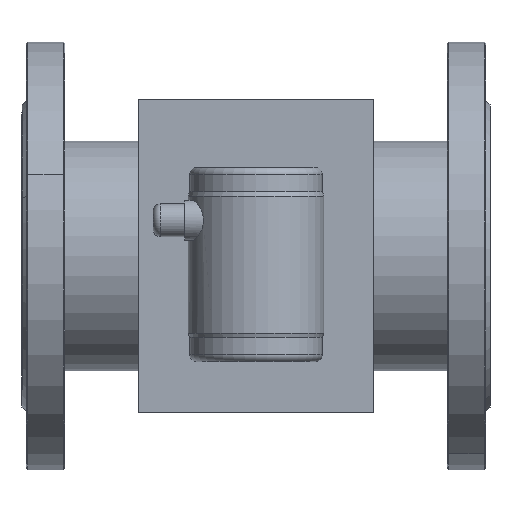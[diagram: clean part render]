
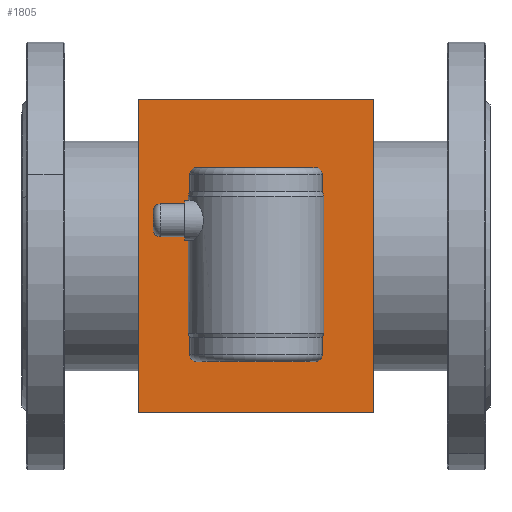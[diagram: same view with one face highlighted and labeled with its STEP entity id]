
A CAD part, front view. The second image highlights one B-rep face of the part: STEP entity #1805.
In plain terms, the highlighted planar face has unit normal (0, -1, 0).
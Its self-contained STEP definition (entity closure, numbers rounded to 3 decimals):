
#45 = CARTESIAN_POINT ( 'NONE',  ( -110., -110., -246.5 ) ) ;
#392 = EDGE_CURVE ( 'NONE', #1144, #1405, #3731, .T. ) ;
#442 = EDGE_CURVE ( 'NONE', #2244, #1144, #2654, .T. ) ;
#496 = VECTOR ( 'NONE', #1116, 1000. ) ;
#501 = CARTESIAN_POINT ( 'NONE',  ( 110., -110., -81.5 ) ) ;
#625 = ORIENTED_EDGE ( 'NONE', *, *, #2539, .F. ) ;
#715 = CARTESIAN_POINT ( 'NONE',  ( 110., -110., -246.5 ) ) ;
#773 = VERTEX_POINT ( 'NONE', #3507 ) ;
#829 = VECTOR ( 'NONE', #4614, 1000. ) ;
#838 = EDGE_LOOP ( 'NONE', ( #2750, #2310, #2735, #3237 ) ) ;
#866 = VECTOR ( 'NONE', #3310, 1000. ) ;
#941 = CIRCLE ( 'NONE', #3107, 30. ) ;
#1116 = DIRECTION ( 'NONE',  ( 0., 0., 1. ) ) ;
#1144 = VERTEX_POINT ( 'NONE', #715 ) ;
#1169 = ORIENTED_EDGE ( 'NONE', *, *, #2369, .F. ) ;
#1254 = EDGE_CURVE ( 'NONE', #2244, #2868, #3481, .T. ) ;
#1405 = VERTEX_POINT ( 'NONE', #501 ) ;
#1523 = DIRECTION ( 'NONE',  ( 0., -1., 0. ) ) ;
#1542 = DIRECTION ( 'NONE',  ( 1., 0., 0. ) ) ;
#1586 = DIRECTION ( 'NONE',  ( 0., 0., -1. ) ) ;
#1728 = EDGE_CURVE ( 'NONE', #2868, #1405, #2964, .T. ) ;
#1805 = ADVANCED_FACE ( 'NONE', ( #4429, #2517 ), #3392, .T. ) ;
#1814 = AXIS2_PLACEMENT_3D ( 'NONE', #3664, #1523, #4034 ) ;
#1972 = CARTESIAN_POINT ( 'NONE',  ( -110., -110., -246.5 ) ) ;
#2132 = DIRECTION ( 'NONE',  ( 0., -1., 0. ) ) ;
#2181 = CIRCLE ( 'NONE', #1814, 30. ) ;
#2244 = VERTEX_POINT ( 'NONE', #1972 ) ;
#2256 = CARTESIAN_POINT ( 'NONE',  ( -110., -110., -246.5 ) ) ;
#2310 = ORIENTED_EDGE ( 'NONE', *, *, #1254, .F. ) ;
#2369 = EDGE_CURVE ( 'NONE', #3078, #773, #941, .T. ) ;
#2478 = AXIS2_PLACEMENT_3D ( 'NONE', #2643, #3752, #1586 ) ;
#2517 = FACE_OUTER_BOUND ( 'NONE', #838, .T. ) ;
#2539 = EDGE_CURVE ( 'NONE', #773, #3078, #2181, .T. ) ;
#2548 = VECTOR ( 'NONE', #1542, 1000. ) ;
#2643 = CARTESIAN_POINT ( 'NONE',  ( -110., -110., -246.5 ) ) ;
#2654 = LINE ( 'NONE', #2256, #2548 ) ;
#2735 = ORIENTED_EDGE ( 'NONE', *, *, #442, .T. ) ;
#2750 = ORIENTED_EDGE ( 'NONE', *, *, #1728, .F. ) ;
#2868 = VERTEX_POINT ( 'NONE', #4236 ) ;
#2964 = LINE ( 'NONE', #3896, #829 ) ;
#3078 = VERTEX_POINT ( 'NONE', #3164 ) ;
#3107 = AXIS2_PLACEMENT_3D ( 'NONE', #4291, #2132, #4643 ) ;
#3164 = CARTESIAN_POINT ( 'NONE',  ( 0., -110., -194. ) ) ;
#3237 = ORIENTED_EDGE ( 'NONE', *, *, #392, .T. ) ;
#3310 = DIRECTION ( 'NONE',  ( 0., 0., 1. ) ) ;
#3392 = PLANE ( 'NONE',  #2478 ) ;
#3481 = LINE ( 'NONE', #45, #496 ) ;
#3507 = CARTESIAN_POINT ( 'NONE',  ( 0., -110., -134. ) ) ;
#3663 = CARTESIAN_POINT ( 'NONE',  ( 110., -110., -246.5 ) ) ;
#3664 = CARTESIAN_POINT ( 'NONE',  ( 0., -110., -164. ) ) ;
#3731 = LINE ( 'NONE', #3663, #866 ) ;
#3752 = DIRECTION ( 'NONE',  ( 0., -1., 0. ) ) ;
#3896 = CARTESIAN_POINT ( 'NONE',  ( -110., -110., -81.5 ) ) ;
#4034 = DIRECTION ( 'NONE',  ( 0., 0., -1. ) ) ;
#4236 = CARTESIAN_POINT ( 'NONE',  ( -110., -110., -81.5 ) ) ;
#4291 = CARTESIAN_POINT ( 'NONE',  ( 0., -110., -164. ) ) ;
#4317 = EDGE_LOOP ( 'NONE', ( #625, #1169 ) ) ;
#4429 = FACE_BOUND ( 'NONE', #4317, .T. ) ;
#4614 = DIRECTION ( 'NONE',  ( 1., 0., 0. ) ) ;
#4643 = DIRECTION ( 'NONE',  ( 0., 0., -1. ) ) ;
